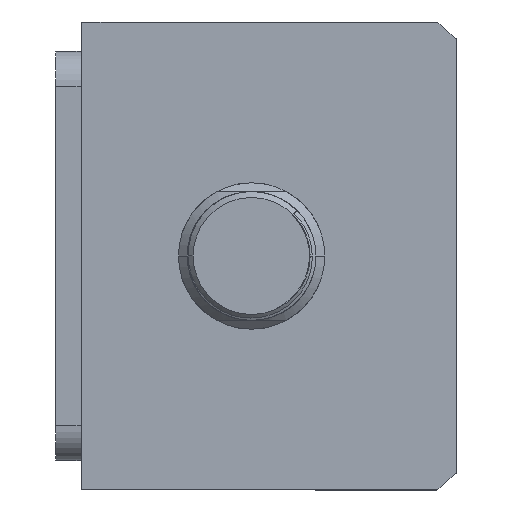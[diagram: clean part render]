
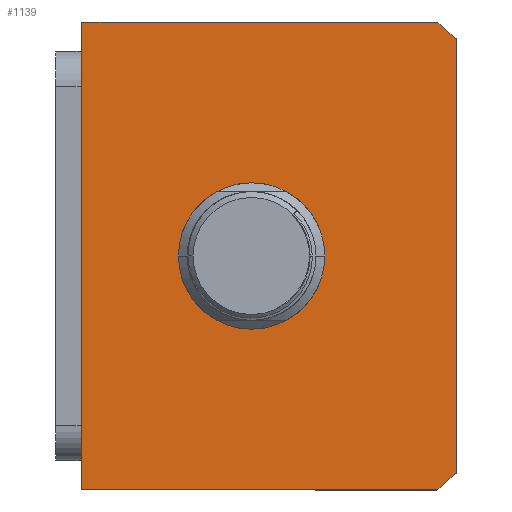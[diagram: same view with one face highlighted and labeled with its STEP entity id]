
A CAD part, front view. The second image highlights one B-rep face of the part: STEP entity #1139.
In plain terms, the highlighted planar face has unit normal (0, -1, 0) as drawn and (0, 0, -1) by its records, which use the part's own axes.
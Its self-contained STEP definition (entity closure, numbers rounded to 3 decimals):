
#288 = DIRECTION ( 'NONE',  ( 0., 0., 1. ) ) ;
#325 = CARTESIAN_POINT ( 'NONE',  ( 0., 3., 0. ) ) ;
#359 = CARTESIAN_POINT ( 'NONE',  ( -40., -32., 0. ) ) ;
#1088 = FACE_OUTER_BOUND ( 'NONE', #12118, .T. ) ;
#1139 = ADVANCED_FACE ( 'NONE', ( #7950, #1088 ), #13567, .F. ) ;
#1262 = EDGE_CURVE ( 'NONE', #2825, #8874, #11160, .T. ) ;
#1303 = CARTESIAN_POINT ( 'NONE',  ( 40., -28.639, 0. ) ) ;
#1335 = EDGE_LOOP ( 'NONE', ( #4711, #16845 ) ) ;
#1691 = DIRECTION ( 'NONE',  ( 1., 0., 0. ) ) ;
#1713 = DIRECTION ( 'NONE',  ( 1., 0., 0. ) ) ;
#1951 = EDGE_CURVE ( 'NONE', #2008, #3752, #13799, .T. ) ;
#2008 = VERTEX_POINT ( 'NONE', #10211 ) ;
#2169 = CARTESIAN_POINT ( 'NONE',  ( 0., 3., 0. ) ) ;
#2611 = LINE ( 'NONE', #6911, #16741 ) ;
#2640 = EDGE_CURVE ( 'NONE', #4154, #14149, #5866, .T. ) ;
#2825 = VERTEX_POINT ( 'NONE', #6607 ) ;
#3188 = VECTOR ( 'NONE', #1691, 1000. ) ;
#3273 = DIRECTION ( 'NONE',  ( -1., 0., 0. ) ) ;
#3398 = CARTESIAN_POINT ( 'NONE',  ( 40., 32., 0. ) ) ;
#3552 = DIRECTION ( 'NONE',  ( 1., 0., 0. ) ) ;
#3631 = LINE ( 'NONE', #359, #3188 ) ;
#3752 = VERTEX_POINT ( 'NONE', #7380 ) ;
#4142 = EDGE_CURVE ( 'NONE', #15036, #16891, #9693, .T. ) ;
#4154 = VERTEX_POINT ( 'NONE', #13592 ) ;
#4310 = VECTOR ( 'NONE', #3273, 1000. ) ;
#4688 = DIRECTION ( 'NONE',  ( 0., 0., 1. ) ) ;
#4711 = ORIENTED_EDGE ( 'NONE', *, *, #2640, .T. ) ;
#4732 = CARTESIAN_POINT ( 'NONE',  ( 37.094, -32., 0. ) ) ;
#4943 = CARTESIAN_POINT ( 'NONE',  ( -12.5, 3., 0. ) ) ;
#5719 = ORIENTED_EDGE ( 'NONE', *, *, #4142, .F. ) ;
#5866 = CIRCLE ( 'NONE', #11269, 12.5 ) ;
#6464 = ORIENTED_EDGE ( 'NONE', *, *, #1951, .F. ) ;
#6553 = ORIENTED_EDGE ( 'NONE', *, *, #14528, .F. ) ;
#6562 = EDGE_CURVE ( 'NONE', #16891, #2825, #15247, .T. ) ;
#6607 = CARTESIAN_POINT ( 'NONE',  ( 40., 32., 0. ) ) ;
#6911 = CARTESIAN_POINT ( 'NONE',  ( -40., 32., 0. ) ) ;
#7380 = CARTESIAN_POINT ( 'NONE',  ( -37.094, -32., 0. ) ) ;
#7544 = VECTOR ( 'NONE', #14362, 1000. ) ;
#7705 = AXIS2_PLACEMENT_3D ( 'NONE', #12131, #9437, #16327 ) ;
#7950 = FACE_BOUND ( 'NONE', #1335, .T. ) ;
#8502 = CARTESIAN_POINT ( 'NONE',  ( 0., 3., 0. ) ) ;
#8874 = VERTEX_POINT ( 'NONE', #15274 ) ;
#9234 = AXIS2_PLACEMENT_3D ( 'NONE', #325, #9921, #1713 ) ;
#9437 = DIRECTION ( 'NONE',  ( 0., 0., 1. ) ) ;
#9693 = CIRCLE ( 'NONE', #14739, 51. ) ;
#9876 = DIRECTION ( 'NONE',  ( 1., 0., 0. ) ) ;
#9921 = DIRECTION ( 'NONE',  ( 0., 0., 1. ) ) ;
#10211 = CARTESIAN_POINT ( 'NONE',  ( -40., -28.639, 0. ) ) ;
#11160 = LINE ( 'NONE', #17163, #4310 ) ;
#11269 = AXIS2_PLACEMENT_3D ( 'NONE', #2169, #11752, #3552 ) ;
#11630 = ORIENTED_EDGE ( 'NONE', *, *, #16164, .F. ) ;
#11752 = DIRECTION ( 'NONE',  ( 0., 0., 1. ) ) ;
#12118 = EDGE_LOOP ( 'NONE', ( #6464, #6553, #12942, #13759, #5719, #11630 ) ) ;
#12131 = CARTESIAN_POINT ( 'NONE',  ( 0., 0., 0. ) ) ;
#12636 = EDGE_CURVE ( 'NONE', #14149, #4154, #15919, .T. ) ;
#12885 = CARTESIAN_POINT ( 'NONE',  ( 0., 3., 0. ) ) ;
#12942 = ORIENTED_EDGE ( 'NONE', *, *, #1262, .F. ) ;
#13567 = PLANE ( 'NONE',  #7705 ) ;
#13592 = CARTESIAN_POINT ( 'NONE',  ( 12.5, 3., 0. ) ) ;
#13759 = ORIENTED_EDGE ( 'NONE', *, *, #6562, .F. ) ;
#13799 = CIRCLE ( 'NONE', #16546, 51. ) ;
#14149 = VERTEX_POINT ( 'NONE', #4943 ) ;
#14280 = DIRECTION ( 'NONE',  ( 1., 0., 0. ) ) ;
#14362 = DIRECTION ( 'NONE',  ( 0., 1., 0. ) ) ;
#14528 = EDGE_CURVE ( 'NONE', #8874, #2008, #2611, .T. ) ;
#14739 = AXIS2_PLACEMENT_3D ( 'NONE', #8502, #288, #9876 ) ;
#15036 = VERTEX_POINT ( 'NONE', #4732 ) ;
#15247 = LINE ( 'NONE', #3398, #7544 ) ;
#15274 = CARTESIAN_POINT ( 'NONE',  ( -40., 32., 0. ) ) ;
#15919 = CIRCLE ( 'NONE', #9234, 12.5 ) ;
#16164 = EDGE_CURVE ( 'NONE', #3752, #15036, #3631, .T. ) ;
#16327 = DIRECTION ( 'NONE',  ( 1., 0., 0. ) ) ;
#16488 = DIRECTION ( 'NONE',  ( 0., -1., 0. ) ) ;
#16546 = AXIS2_PLACEMENT_3D ( 'NONE', #12885, #4688, #14280 ) ;
#16741 = VECTOR ( 'NONE', #16488, 1000. ) ;
#16845 = ORIENTED_EDGE ( 'NONE', *, *, #12636, .T. ) ;
#16891 = VERTEX_POINT ( 'NONE', #1303 ) ;
#17163 = CARTESIAN_POINT ( 'NONE',  ( -40., 32., 0. ) ) ;
